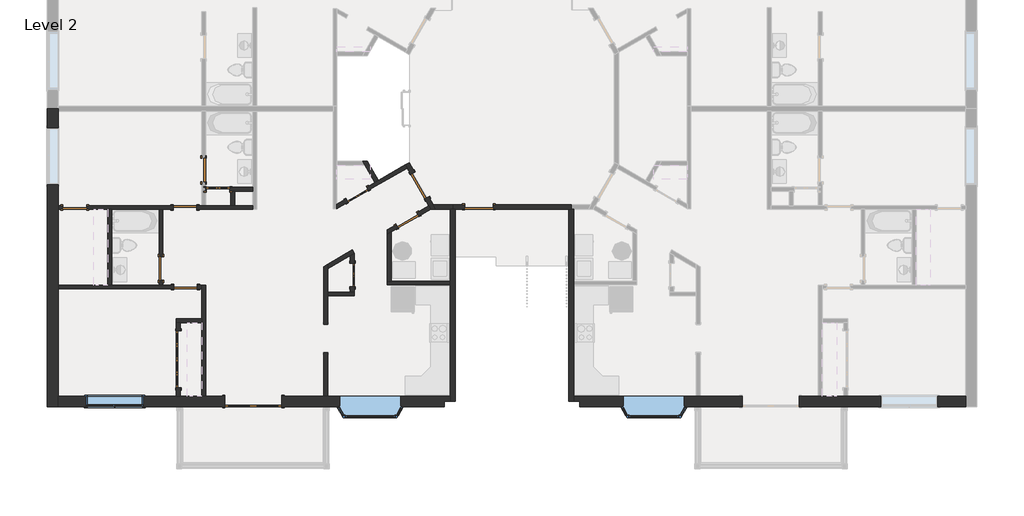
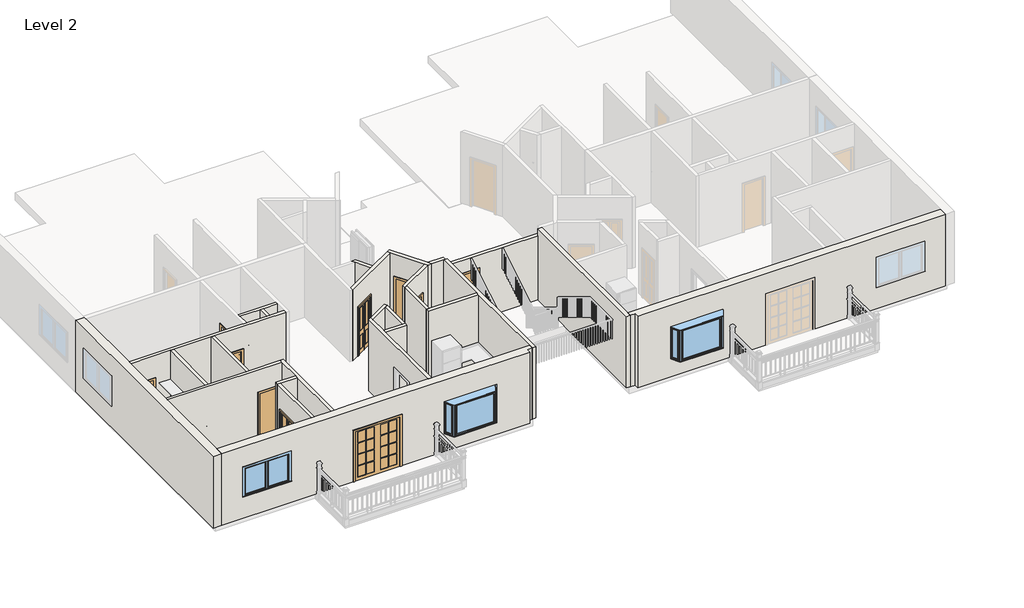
# One storey, part 1 of 5: 26 walls, 13 doors, 3 windows.
"""IFC4 building model written with IfcOpenShell, lengths in millimetres."""

from ifc_helpers import new_model, si_unit, frame, origin, place, context, project, spatial, polyline, outline, extrude, faceted_brep, transform, mapped, element, save
from components import door_28b41c19, door_77c9d7c5, door_c95ce901, door_0a477ef8, door_91cbdfe0, door_39079f6b, door_140ee3fe, door_3dff5d0e, window_fb9100aa, window_7fb523db, window_565d5888

model = new_model("IFC4")

# Units and contexts
model_context = context("Model", 3, world=origin())
ifc_project = project(units=[si_unit("LENGTHUNIT", "METRE", prefix="MILLI")], contexts=[model_context])

# Site, building, storey
site = spatial("IfcSite", under=ifc_project)
building = spatial("IfcBuilding", under=site)
storey = spatial("IfcBuildingStorey", under=building, Name="Level 2", Elevation=3048.0)

# Doors
placement = place(None, origin())
door_shape = door_28b41c19(model_context)
element("IfcDoor", 1, ObjectType="Bifold-2 Panel : 30\" x 80\"", at=placement, inside=storey, context=model_context, shape_type="MappedRepresentation", body=[
    mapped(door_shape, transform((-10106.3500398, -807.7286799, 3048.0), x_axis=(-1.0, 0.0, 0.0), y_axis=(0.0, -1.0, 0.0), z_axis=(0.0, 0.0, 1.0))),
])
door_2_shape = door_77c9d7c5(model_context)
element("IfcDoor", 2, ObjectType="Bifold-2 Panel : 30\" x 80\"", at=placement, inside=storey, context=model_context, shape_type="MappedRepresentation", body=[
    mapped(door_2_shape, transform((-5777.2375398, -3569.9786799, 3048.0), x_axis=(0.0, -1.0, 0.0), y_axis=(1.0, 0.0, 0.0), z_axis=(0.0, 0.0, 1.0))),
])
element("IfcDoor", 3, ObjectType="Bifold-2 Panel : 30\" x 80\"", at=placement, inside=storey, context=model_context, shape_type="MappedRepresentation", body=[
    mapped(door_2_shape, transform((-5620.6593942, -978.2984974, 3048.0), x_axis=(-0.8660254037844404, -0.4999999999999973, 0.0), y_axis=(0.4999999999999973, -0.8660254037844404, 0.0), z_axis=(0.0, 0.0, 1.0))),
])
door_3_shape = door_c95ce901(model_context)
element("IfcDoor", 4, ObjectType="Bifold-4 Panel : 72\" x 80\"", at=placement, inside=storey, context=model_context, shape_type="MappedRepresentation", body=[
    mapped(door_3_shape, transform((-11387.4625398, -6287.7786799, 3048.0), x_axis=(0.0, 1.0, 0.0), y_axis=(-1.0, 0.0, 0.0), z_axis=(0.0, 0.0, 1.0))),
])
door_4_shape = door_0a477ef8(model_context)
element("IfcDoor", 5, ObjectType="Double-Glass 2 : 72\" x 84\"", at=placement, inside=storey, context=model_context, shape_type="MappedRepresentation", body=[
    mapped(door_4_shape, transform((-8972.8750398, -7646.6786799, 3048.0), x_axis=(-1.0, 0.0, 0.0), y_axis=(0.0, -1.0, 0.0), z_axis=(0.0, 0.0, 1.0))),
])
door_5_shape = door_91cbdfe0(model_context)
element("IfcDoor", 6, ObjectType="Single-Flush : 30\" x 80\"", at=placement, inside=storey, context=model_context, shape_type="MappedRepresentation", body=[
    mapped(door_5_shape, transform((-11154.1000398, -3954.1536799, 3048.0), x_axis=(1.0, 0.0, 0.0), y_axis=(0.0, 1.0, 0.0), z_axis=(0.0, 0.0, 1.0))),
])
element("IfcDoor", 7, ObjectType="Single-Flush : 30\" x 80\"", at=placement, inside=storey, context=model_context, shape_type="MappedRepresentation", body=[
    mapped(door_5_shape, transform((-4004.5369788, -1809.0046321, 3048.0), x_axis=(0.8660254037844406, 0.4999999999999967, 0.0), y_axis=(-0.4999999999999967, 0.8660254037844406, 0.0), z_axis=(0.0, 0.0, 1.0))),
])
element("IfcDoor", 8, ObjectType="Single-Flush : 30\" x 80\"", at=placement, inside=storey, context=model_context, shape_type="MappedRepresentation", body=[
    mapped(door_5_shape, transform((-11949.4375398, -3358.8411799, 3048.0), x_axis=(0.0, -1.0, 0.0), y_axis=(1.0, 0.0, 0.0), z_axis=(0.0, 0.0, 1.0))),
])
door_6_shape = door_39079f6b(model_context)
element("IfcDoor", 9, ObjectType="Single-Flush : 30\" x 80\"", at=placement, inside=storey, context=model_context, shape_type="MappedRepresentation", body=[
    mapped(door_6_shape, transform((-11169.9750398, -1391.9286799, 3048.0), x_axis=(1.0, 0.0, 0.0), y_axis=(0.0, 1.0, 0.0), z_axis=(0.0, 0.0, 1.0))),
])
element("IfcDoor", 10, ObjectType="Single-Flush : 30\" x 80\"", at=placement, inside=storey, context=model_context, shape_type="MappedRepresentation", body=[
    mapped(door_6_shape, transform((-10574.6625398, -183.8411799, 3048.0), x_axis=(0.0, -1.0, 0.0), y_axis=(1.0, 0.0, 0.0), z_axis=(0.0, 0.0, 1.0))),
])
element("IfcDoor", 11, ObjectType="Single-Flush : 30\" x 80\"", at=placement, inside=storey, context=model_context, shape_type="MappedRepresentation", body=[
    mapped(door_6_shape, transform((-14725.9750398, -1391.9286799, 3048.0), x_axis=(-1.0, 0.0, 0.0), y_axis=(0.0, -1.0, 0.0), z_axis=(0.0, 0.0, 1.0))),
])
door_7_shape = door_140ee3fe(model_context)
element("IfcDoor", 12, ObjectType="Single-Flush : 36\" x 80\"", at=placement, inside=storey, context=model_context, shape_type="MappedRepresentation", body=[
    mapped(door_7_shape, transform((-3603.7554054, -687.0786799, 3048.0), x_axis=(-0.4999999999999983, 0.8660254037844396, 0.0), y_axis=(-0.8660254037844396, -0.4999999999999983, 0.0), z_axis=(0.0, 0.0, 1.0))),
])
door_8_shape = door_3dff5d0e(model_context)
element("IfcDoor", 13, ObjectType="Single-Flush : 36\" x 84\"", at=placement, inside=storey, context=model_context, shape_type="MappedRepresentation", body=[
    mapped(door_8_shape, transform((-1698.9500398, -1372.8786799, 3048.0), x_axis=(-1.0, 0.0, 0.0), y_axis=(0.0, -1.0, 0.0), z_axis=(0.0, 0.0, 1.0))),
])

# Walls
element("IfcWall", 14, ObjectType="Exterior - Brick on Mtl. Stud", at=placement, inside=storey, context=model_context, shape_type="Brep", body=[
    faceted_brep([(-15259.3750398, -7822.8911799, 3048.0), (-9887.2750398, -7822.8911799, 3048.0), (-9887.2750398, -7822.8911799, 5181.6), (-8058.4750398, -7822.8911799, 5181.6), (-8058.4750398, -7822.8911799, 3048.0), (-2813.3750398, -7822.8911799, 3048.0), (-2813.3750398, -7822.8911799, 6096.0), (-8058.4750398, -7822.8911799, 6096.0), (-9887.2750398, -7822.8911799, 6096.0), (-15259.3750398, -7822.8911799, 6096.0), (-6259.7532738, -7822.8911799, 5181.6), (-4151.6375398, -7822.8911799, 5181.6), (-4151.6375398, -7822.8911799, 3810.0), (-6259.7532738, -7822.8911799, 3810.0), (-14350.5312898, -7822.8911799, 5181.6), (-12521.7312898, -7822.8911799, 5181.6), (-12521.7312898, -7822.8911799, 3962.4), (-14350.5312898, -7822.8911799, 3962.4), (-9887.2750398, -7470.4661799, 5181.6), (-9887.2750398, -7470.4661799, 3048.0), (-10512.7500398, -7470.4661799, 3048.0), (-10636.5750398, -7470.4661799, 3048.0), (-11325.5500398, -7470.4661799, 3048.0), (-11449.3750398, -7470.4661799, 3048.0), (-15259.3750398, -7470.4661799, 3048.0), (-15259.3750398, -7470.4661799, 6096.0), (-11449.3750398, -7470.4661799, 6096.0), (-11325.5500398, -7470.4661799, 6096.0), (-10636.5750398, -7470.4661799, 6096.0), (-10512.7500398, -7470.4661799, 6096.0), (-9887.2750398, -7470.4661799, 6096.0), (-8058.4750398, -7470.4661799, 6096.0), (-6702.7500398, -7470.4661799, 6096.0), (-6578.9250398, -7470.4661799, 6096.0), (-2616.5250398, -7470.4661799, 6096.0), (-2616.5250398, -7470.4661799, 3048.0), (-6578.9250398, -7470.4661799, 3048.0), (-6702.7500398, -7470.4661799, 3048.0), (-8058.4750398, -7470.4661799, 3048.0), (-8058.4750398, -7470.4661799, 5181.6), (-4218.9373798, -7470.4661799, 5181.6), (-6192.5376998, -7470.4661799, 5181.6), (-6192.5376998, -7470.4661799, 3810.0), (-4218.9373798, -7470.4661799, 3810.0), (-14350.5312898, -7470.4661799, 5181.6), (-14350.5312898, -7470.4661799, 3962.4), (-12521.7312898, -7470.4661799, 3962.4), (-12521.7312898, -7470.4661799, 5181.6), (-2616.5250398, -7646.6786799, 3048.0), (-2813.3750398, -7646.6786799, 3048.0), (-2813.3750398, -7646.6786799, 6096.0), (-2616.5250398, -7646.6786799, 6096.0), (-4218.9373798, -7783.9404412, 5181.6), (-6192.5376998, -7783.9890922, 5181.6), (-4218.9373798, -7783.9404412, 3810.0), (-6192.5376998, -7783.9890922, 3810.0)], [[[0, 1, 2, 3, 4, 5, 6, 7, 8, 9], [10, 11, 12, 13], [14, 15, 16, 17]], [[18, 19, 20, 21, 22, 23, 24, 25, 26, 27, 28, 29, 30, 31, 32, 33, 34, 35, 36, 37, 38, 39], [40, 41, 42, 43], [44, 45, 46, 47]], [[24, 23, 22, 21, 20, 19, 1, 0]], [[38, 37, 36, 35, 48, 49, 5, 4]], [[9, 8, 7, 6, 50, 51, 34, 33, 32, 31, 30, 29, 28, 27, 26, 25]], [[0, 9, 25, 24]], [[6, 5, 49, 50]], [[49, 48, 51, 50]], [[48, 35, 34, 51]], [[2, 1, 19, 18]], [[3, 2, 18, 39]], [[4, 3, 39, 38]], [[52, 11, 10, 53, 41, 40]], [[54, 43, 42, 55, 13, 12]], [[52, 40, 43, 54]], [[41, 53, 55, 42]], [[53, 10, 13, 55]], [[11, 52, 54, 12]], [[45, 44, 14, 17]], [[46, 45, 17, 16]], [[47, 46, 16, 15]], [[44, 47, 15, 14]]]),
])
element("IfcWall", 15, ObjectType="Exterior - Brick on Mtl. Stud", at=placement, inside=storey, context=model_context, shape_type="Brep", body=[
    faceted_brep([(-15611.8000398, 1795.7713201, 3048.0), (-15611.8000398, -7822.8911799, 3048.0), (-15611.8000398, -7822.8911799, 6096.0), (-15611.8000398, 1795.7713201, 6096.0), (-15611.8000398, 1170.2963201, 5181.6), (-15611.8000398, -658.5036799, 5181.6), (-15611.8000398, -658.5036799, 3962.4), (-15611.8000398, 1170.2963201, 3962.4), (-15259.3750398, 1795.7713201, 3048.0), (-15259.3750398, 1795.7713201, 6096.0), (-15259.3750398, 1717.9838201, 6096.0), (-15259.3750398, -1330.0161799, 6096.0), (-15259.3750398, -1453.8411799, 6096.0), (-15259.3750398, -3892.2411799, 6096.0), (-15259.3750398, -4016.0661799, 6096.0), (-15259.3750398, -7470.4661799, 6096.0), (-15259.3750398, -7822.8911799, 6096.0), (-15259.3750398, -7822.8911799, 3048.0), (-15259.3750398, -7470.4661799, 3048.0), (-15259.3750398, -4016.0661799, 3048.0), (-15259.3750398, -3892.2411799, 3048.0), (-15259.3750398, -1453.8411799, 3048.0), (-15259.3750398, -1330.0161799, 3048.0), (-15259.3750398, 1717.9838201, 3048.0), (-15259.3750398, 1170.2963201, 5181.6), (-15259.3750398, 1170.2963201, 3962.4), (-15259.3750398, -658.5036799, 3962.4), (-15259.3750398, -658.5036799, 5181.6)], [[[0, 1, 2, 3], [4, 5, 6, 7]], [[8, 9, 10, 11, 12, 13, 14, 15, 16, 17, 18, 19, 20, 21, 22, 23], [24, 25, 26, 27]], [[1, 0, 8, 23, 22, 21, 20, 19, 18, 17]], [[3, 2, 16, 15, 14, 13, 12, 11, 10, 9]], [[0, 3, 9, 8]], [[2, 1, 17, 16]], [[25, 24, 4, 7]], [[26, 25, 7, 6]], [[27, 26, 6, 5]], [[24, 27, 5, 4]]]),
])
element("IfcWall", 16, ObjectType="Exterior - Brick on Mtl. Stud", at=placement, inside=storey, context=model_context, shape_type="Brep", body=[
    faceted_brep([(13995.0749602, -7470.4661799, 3048.0), (10185.0749602, -7470.4661799, 3048.0), (10061.2499602, -7470.4661799, 3048.0), (9372.2749602, -7470.4661799, 3048.0), (9248.4499602, -7470.4661799, 3048.0), (8622.9749602, -7470.4661799, 3048.0), (8622.9749602, -7470.4661799, 5181.6), (6794.1749602, -7470.4661799, 5181.6), (6794.1749602, -7470.4661799, 3048.0), (5438.4499602, -7470.4661799, 3048.0), (5314.6249602, -7470.4661799, 3048.0), (1352.2249602, -7470.4661799, 3048.0), (1352.2249602, -7470.4661799, 6096.0), (5314.6249602, -7470.4661799, 6096.0), (5438.4499602, -7470.4661799, 6096.0), (6794.1749602, -7470.4661799, 6096.0), (8622.9749602, -7470.4661799, 6096.0), (9248.4499602, -7470.4661799, 6096.0), (9372.2749602, -7470.4661799, 6096.0), (10061.2499602, -7470.4661799, 6096.0), (10185.0749602, -7470.4661799, 6096.0), (13995.0749602, -7470.4661799, 6096.0), (4928.2376202, -7470.4661799, 5181.6), (2954.6373002, -7470.4661799, 5181.6), (2954.6373002, -7470.4661799, 3810.0), (4928.2376202, -7470.4661799, 3810.0), (13086.2312102, -7470.4661799, 5181.6), (11257.4312102, -7470.4661799, 5181.6), (11257.4312102, -7470.4661799, 3962.4), (13086.2312102, -7470.4661799, 3962.4), (8622.9749602, -7822.8911799, 5181.6), (8622.9749602, -7822.8911799, 3048.0), (13995.0749602, -7822.8911799, 3048.0), (13995.0749602, -7822.8911799, 6096.0), (8622.9749602, -7822.8911799, 6096.0), (6794.1749602, -7822.8911799, 6096.0), (1549.0749602, -7822.8911799, 6096.0), (1549.0749602, -7822.8911799, 3048.0), (6794.1749602, -7822.8911799, 3048.0), (6794.1749602, -7822.8911799, 5181.6), (2887.3374602, -7822.8911799, 5181.6), (4995.4531942, -7822.8911799, 5181.6), (4995.4531942, -7822.8911799, 3810.0), (2887.3374602, -7822.8911799, 3810.0), (13086.2312102, -7822.8911799, 5181.6), (13086.2312102, -7822.8911799, 3962.4), (11257.4312102, -7822.8911799, 3962.4), (11257.4312102, -7822.8911799, 5181.6), (1549.0749602, -7646.6786799, 3048.0), (1352.2249602, -7646.6786799, 3048.0), (1352.2249602, -7646.6786799, 6096.0), (1549.0749602, -7646.6786799, 6096.0), (2954.6373002, -7783.9404412, 5181.6), (4928.2376202, -7783.9890922, 5181.6), (2954.6373002, -7783.9404412, 3810.0), (4928.2376202, -7783.9890922, 3810.0)], [[[0, 1, 2, 3, 4, 5, 6, 7, 8, 9, 10, 11, 12, 13, 14, 15, 16, 17, 18, 19, 20, 21], [22, 23, 24, 25], [26, 27, 28, 29]], [[30, 31, 32, 33, 34, 35, 36, 37, 38, 39], [40, 41, 42, 43], [44, 45, 46, 47]], [[32, 31, 5, 4, 3, 2, 1, 0]], [[38, 37, 48, 49, 11, 10, 9, 8]], [[21, 20, 19, 18, 17, 16, 15, 14, 13, 12, 50, 51, 36, 35, 34, 33]], [[0, 21, 33, 32]], [[12, 11, 49, 50]], [[49, 48, 51, 50]], [[48, 37, 36, 51]], [[6, 5, 31, 30]], [[7, 6, 30, 39]], [[8, 7, 39, 38]], [[52, 23, 22, 53, 41, 40]], [[54, 43, 42, 55, 25, 24]], [[52, 54, 24, 23]], [[22, 25, 55, 53]], [[53, 55, 42, 41]], [[40, 43, 54, 52]], [[45, 44, 26, 29]], [[46, 45, 29, 28]], [[47, 46, 28, 27]], [[44, 47, 27, 26]]]),
])
element("IfcWall", 17, ObjectType="Generic - 6\" Masonry", at=placement, inside=storey, context=model_context, shape_type="Brep", body=[
    faceted_brep([(-3084.0752113, -1444.3161799, 3048.0), (-2616.5250398, -1444.3161799, 3048.0), (-2538.7375398, -1444.3161799, 3048.0), (-2538.7375398, -1444.3161799, 5791.2), (-2538.7375398, -1444.3161799, 6096.0), (-2616.5250398, -1444.3161799, 6096.0), (-3084.0752113, -1444.3161799, 6096.0), (-3166.564131, -1301.4411799, 3048.0), (-3166.564131, -1301.4411799, 6096.0), (-2538.7375398, -1301.4411799, 6096.0), (-2538.7375398, -1301.4411799, 5791.2), (-2538.7375398, -1301.4411799, 3048.0)], [[[0, 1, 2, 3, 4, 5, 6]], [[7, 8, 9, 10, 11]], [[2, 1, 0, 7, 11]], [[4, 3, 2, 11, 10, 9]], [[6, 5, 4, 9, 8]], [[0, 6, 8, 7]]]),
])
element("IfcWall", 18, ObjectType="Generic - 6\" Masonry", at=placement, inside=storey, context=model_context, shape_type="Brep", body=[
    faceted_brep([(-4074.7024624, -14.2494496, 3048.0), (-4012.7899624, -121.4850452, 3048.0), (-3894.2220952, -326.8506153, 3048.0), (-3894.2220952, -326.8506153, 5080.0), (-3437.0220952, -1118.7442445, 5080.0), (-3437.0220952, -1118.7442445, 3048.0), (-3310.9655507, -1337.0805843, 3048.0), (-3249.0530507, -1444.3161799, 3048.0), (-3249.0530507, -1444.3161799, 6096.0), (-3310.9655507, -1337.0805843, 6096.0), (-4012.7899624, -121.4850452, 6096.0), (-4074.7024624, -14.2494496, 6096.0), (-3770.4887156, -255.4131153, 5080.0), (-3770.4887156, -255.4131153, 3048.0), (-3950.9690828, 57.1880504, 3048.0), (-3950.9690828, 57.1880504, 6096.0), (-3166.564131, -1301.4411799, 6096.0), (-3084.0752113, -1444.3161799, 6096.0), (-3084.0752113, -1444.3161799, 3048.0), (-3166.564131, -1301.4411799, 3048.0), (-3313.2887156, -1047.3067445, 3048.0), (-3313.2887156, -1047.3067445, 5080.0)], [[[0, 1, 2, 3, 4, 5, 6, 7, 8, 9, 10, 11]], [[12, 13, 14, 15, 16, 17, 18, 19, 20, 21]], [[14, 13, 2, 1, 0]], [[20, 19, 18, 7, 6, 5]], [[11, 10, 9, 8, 17, 16, 15]], [[8, 7, 18, 17]], [[0, 11, 15, 14]], [[3, 2, 13, 12]], [[4, 3, 12, 21]], [[5, 4, 21, 20]]]),
])
element("IfcWall", 19, ObjectType="Generic - 6\" Masonry", at=placement, inside=storey, context=model_context, shape_type="Brep", body=[
    faceted_brep([(-2538.7375398, -1444.3161799, 3048.0), (-2460.9500398, -1444.3161799, 3048.0), (-2156.1500398, -1444.3161799, 3048.0), (-2156.1500398, -1444.3161799, 5181.6), (-1241.7500398, -1444.3161799, 5181.6), (-1241.7500398, -1444.3161799, 3048.0), (1196.6499602, -1444.3161799, 3048.0), (1274.4374602, -1444.3161799, 3048.0), (1274.4374602, -1444.3161799, 5791.2), (-2538.7375398, -1444.3161799, 5791.2), (-2156.1500398, -1301.4411799, 5181.6), (-2156.1500398, -1301.4411799, 3048.0), (-2538.7375398, -1301.4411799, 3048.0), (-2538.7375398, -1301.4411799, 5791.2), (1274.4374602, -1301.4411799, 5791.2), (1274.4374602, -1301.4411799, 3048.0), (1196.6499602, -1301.4411799, 3048.0), (-1241.7500398, -1301.4411799, 3048.0), (-1241.7500398, -1301.4411799, 5181.6), (1274.4374602, -1372.8786799, 5791.2), (-2538.7375398, -1372.8786799, 5791.2)], [[[0, 1, 2, 3, 4, 5, 6, 7, 8, 9]], [[10, 11, 12, 13, 14, 15, 16, 17, 18]], [[12, 11, 2, 1, 0]], [[17, 16, 15, 7, 6, 5]], [[8, 7, 15, 14, 19]], [[0, 9, 20, 13, 12]], [[3, 2, 11, 10]], [[4, 3, 10, 18]], [[5, 4, 18, 17]], [[19, 14, 13, 20, 9, 8]]]),
])
element("IfcWall", 20, ObjectType="Interior - 4 7/8\" Partition (1-hr)", at=placement, inside=storey, context=model_context, shape_type="Brep", body=[
    faceted_brep([(-6578.9250398, -7470.4661799, 3048.0), (-6578.9250398, -6071.8786799, 3048.0), (-6578.9250398, -6071.8786799, 5080.0), (-6578.9250398, -5157.4786799, 5080.0), (-6578.9250398, -5157.4786799, 3048.0), (-6578.9250398, -4244.6661799, 3048.0), (-6578.9250398, -4120.8411799, 3048.0), (-6578.9250398, -3366.8186692, 3048.0), (-6578.9250398, -3223.8378751, 3048.0), (-6578.9250398, -3223.8378751, 6096.0), (-6578.9250398, -3366.8186692, 6096.0), (-6578.9250398, -4120.8411799, 6096.0), (-6578.9250398, -4244.6661799, 6096.0), (-6578.9250398, -7470.4661799, 6096.0), (-6702.7500398, -6071.8786799, 5080.0), (-6702.7500398, -6071.8786799, 3048.0), (-6702.7500398, -7470.4661799, 3048.0), (-6702.7500398, -7470.4661799, 6096.0), (-6702.7500398, -3295.3282721, 6096.0), (-6702.7500398, -3295.3282721, 3048.0), (-6702.7500398, -5157.4786799, 3048.0), (-6702.7500398, -5157.4786799, 5080.0)], [[[0, 1, 2, 3, 4, 5, 6, 7, 8, 9, 10, 11, 12, 13]], [[14, 15, 16, 17, 18, 19, 20, 21]], [[16, 15, 1, 0]], [[20, 19, 8, 7, 6, 5, 4]], [[13, 12, 11, 10, 9, 18, 17]], [[9, 8, 19, 18]], [[0, 13, 17, 16]], [[4, 3, 21, 20]], [[2, 1, 15, 14]], [[3, 2, 14, 21]]]),
])
element("IfcWall", 21, ObjectType="Interior - 4 7/8\" Partition (1-hr)", at=placement, inside=storey, context=model_context, shape_type="Brep", body=[
    faceted_brep([(-10512.7500398, -7470.4661799, 3048.0), (-10512.7500398, -3892.2411799, 3048.0), (-10512.7500398, -3892.2411799, 6096.0), (-10512.7500398, -7470.4661799, 6096.0), (-10636.5750398, -7470.4661799, 3048.0), (-10636.5750398, -7470.4661799, 6096.0), (-10636.5750398, -5105.0911799, 6096.0), (-10636.5750398, -4981.2661799, 6096.0), (-10636.5750398, -4016.0661799, 6096.0), (-10636.5750398, -3892.2411799, 6096.0), (-10636.5750398, -3892.2411799, 3048.0), (-10636.5750398, -4016.0661799, 3048.0), (-10636.5750398, -4981.2661799, 3048.0), (-10636.5750398, -5105.0911799, 3048.0)], [[[0, 1, 2, 3]], [[4, 5, 6, 7, 8, 9, 10, 11, 12, 13]], [[1, 0, 4, 13, 12, 11, 10]], [[3, 2, 9, 8, 7, 6, 5]], [[2, 1, 10, 9]], [[0, 3, 5, 4]]]),
])
element("IfcWall", 22, ObjectType="Interior - 4 7/8\" Partition (1-hr)", at=placement, inside=storey, context=model_context, shape_type="Brep", body=[
    faceted_brep([(-10636.5750398, -3892.2411799, 3048.0), (-10773.1000398, -3892.2411799, 3048.0), (-10773.1000398, -3892.2411799, 5080.0), (-11535.1000398, -3892.2411799, 5080.0), (-11535.1000398, -3892.2411799, 3048.0), (-11887.5250398, -3892.2411799, 3048.0), (-12011.3500398, -3892.2411799, 3048.0), (-13535.3500398, -3892.2411799, 3048.0), (-13659.1750398, -3892.2411799, 3048.0), (-15259.3750398, -3892.2411799, 3048.0), (-15259.3750398, -3892.2411799, 6096.0), (-13659.1750398, -3892.2411799, 6096.0), (-13535.3500398, -3892.2411799, 6096.0), (-12011.3500398, -3892.2411799, 6096.0), (-11887.5250398, -3892.2411799, 6096.0), (-10636.5750398, -3892.2411799, 6096.0), (-10773.1000398, -4016.0661799, 5080.0), (-10773.1000398, -4016.0661799, 3048.0), (-10636.5750398, -4016.0661799, 3048.0), (-10636.5750398, -4016.0661799, 6096.0), (-15259.3750398, -4016.0661799, 6096.0), (-15259.3750398, -4016.0661799, 3048.0), (-11535.1000398, -4016.0661799, 3048.0), (-11535.1000398, -4016.0661799, 5080.0)], [[[0, 1, 2, 3, 4, 5, 6, 7, 8, 9, 10, 11, 12, 13, 14, 15]], [[16, 17, 18, 19, 20, 21, 22, 23]], [[18, 17, 1, 0]], [[22, 21, 9, 8, 7, 6, 5, 4]], [[15, 14, 13, 12, 11, 10, 20, 19]], [[10, 9, 21, 20]], [[0, 15, 19, 18]], [[2, 1, 17, 16]], [[3, 2, 16, 23]], [[4, 3, 23, 22]]]),
])
element("IfcWall", 23, ObjectType="Interior - 4 7/8\" Partition (1-hr)", at=placement, inside=storey, context=model_context, shape_type="SweptSolid", body=[
    extrude(outline(polyline([(-3739.8411799, 5080.0), (-3739.8411799, 3048.0), (-3892.2411799, 3048.0), (-3892.2411799, 6096.0), (-1453.8411799, 6096.0), (-1453.8411799, 3048.0), (-2977.8411799, 3048.0), (-2977.8411799, 5080.0), (-3739.8411799, 5080.0)])), frame((-12011.3500398, 0.0, 0.0), z_axis=(1.0, 0.0, 0.0), x_axis=(0.0, 1.0, 0.0)), (0.0, 0.0, 1.0), 123.825),
])
element("IfcWall", 24, ObjectType="Interior - 4 7/8\" Partition (1-hr)", at=placement, inside=storey, context=model_context, shape_type="Brep", body=[
    faceted_brep([(-10636.5750398, -4981.2661799, 3048.0), (-11449.3750398, -4981.2661799, 3048.0), (-11449.3750398, -4981.2661799, 6096.0), (-10636.5750398, -4981.2661799, 6096.0), (-10636.5750398, -5105.0911799, 3048.0), (-10636.5750398, -5105.0911799, 6096.0), (-11325.5500398, -5105.0911799, 6096.0), (-11449.3750398, -5105.0911799, 6096.0), (-11449.3750398, -5105.0911799, 3048.0), (-11325.5500398, -5105.0911799, 3048.0)], [[[0, 1, 2, 3]], [[4, 5, 6, 7, 8, 9]], [[1, 0, 4, 9, 8]], [[3, 2, 7, 6, 5]], [[2, 1, 8, 7]], [[0, 3, 5, 4]]]),
])
element("IfcWall", 25, ObjectType="Interior - 4 7/8\" Partition (1-hr)", at=placement, inside=storey, context=model_context, shape_type="SweptSolid", body=[
    extrude(outline(polyline([(-5105.0911799, 3048.0), (-5373.3786799, 3048.0), (-5373.3786799, 5080.0), (-7202.1786799, 5080.0), (-7202.1786799, 3048.0), (-7470.4661799, 3048.0), (-7470.4661799, 6096.0), (-5105.0911799, 6096.0), (-5105.0911799, 3048.0)])), frame((-11449.3750398, 0.0, 0.0), z_axis=(1.0, 0.0, 0.0), x_axis=(0.0, 1.0, 0.0)), (0.0, 0.0, 1.0), 123.825),
])
element("IfcWall", 26, ObjectType="Interior - 4 7/8\" Partition (1-hr)", at=placement, inside=storey, context=model_context, shape_type="SweptSolid", body=[
    extrude(outline(polyline([(-13535.3500398, -1453.8411799), (-13535.3500398, -3892.2411799), (-13659.1750398, -3892.2411799), (-13659.1750398, -1453.8411799), (-13535.3500398, -1453.8411799)])), frame((0.0, 0.0, 3048.0), z_axis=(0.0, 0.0, 1.0), x_axis=(1.0, 0.0, 0.0)), (0.0, 0.0, 1.0), 3048.0),
])
element("IfcWall", 27, ObjectType="Interior - 4 7/8\" Partition (1-hr)", at=placement, inside=storey, context=model_context, shape_type="Brep", body=[
    faceted_brep([(-15259.3750398, -1453.8411799, 3048.0), (-15106.9750398, -1453.8411799, 3048.0), (-15106.9750398, -1453.8411799, 5080.0), (-14344.9750398, -1453.8411799, 5080.0), (-14344.9750398, -1453.8411799, 3048.0), (-13659.1750398, -1453.8411799, 3048.0), (-13535.3500398, -1453.8411799, 3048.0), (-12011.3500398, -1453.8411799, 3048.0), (-11887.5250398, -1453.8411799, 3048.0), (-11550.9750398, -1453.8411799, 3048.0), (-11550.9750398, -1453.8411799, 5080.0), (-10788.9750398, -1453.8411799, 5080.0), (-10788.9750398, -1453.8411799, 3048.0), (-8988.7500398, -1453.8411799, 3048.0), (-8988.7500398, -1453.8411799, 6096.0), (-11887.5250398, -1453.8411799, 6096.0), (-12011.3500398, -1453.8411799, 6096.0), (-13535.3500398, -1453.8411799, 6096.0), (-13659.1750398, -1453.8411799, 6096.0), (-15259.3750398, -1453.8411799, 6096.0), (-15106.9750398, -1330.0161799, 5080.0), (-15106.9750398, -1330.0161799, 3048.0), (-15259.3750398, -1330.0161799, 3048.0), (-15259.3750398, -1330.0161799, 6096.0), (-10636.5750398, -1330.0161799, 6096.0), (-10512.7500398, -1330.0161799, 6096.0), (-9699.9500398, -1330.0161799, 6096.0), (-9576.1250398, -1330.0161799, 6096.0), (-8988.7500398, -1330.0161799, 6096.0), (-8988.7500398, -1330.0161799, 3048.0), (-9576.1250398, -1330.0161799, 3048.0), (-9699.9500398, -1330.0161799, 3048.0), (-10512.7500398, -1330.0161799, 3048.0), (-10636.5750398, -1330.0161799, 3048.0), (-10788.9750398, -1330.0161799, 3048.0), (-10788.9750398, -1330.0161799, 5080.0), (-11550.9750398, -1330.0161799, 5080.0), (-11550.9750398, -1330.0161799, 3048.0), (-14344.9750398, -1330.0161799, 3048.0), (-14344.9750398, -1330.0161799, 5080.0)], [[[0, 1, 2, 3, 4, 5, 6, 7, 8, 9, 10, 11, 12, 13, 14, 15, 16, 17, 18, 19]], [[20, 21, 22, 23, 24, 25, 26, 27, 28, 29, 30, 31, 32, 33, 34, 35, 36, 37, 38, 39]], [[13, 12, 34, 33, 32, 31, 30, 29]], [[22, 21, 1, 0]], [[38, 37, 9, 8, 7, 6, 5, 4]], [[19, 18, 17, 16, 15, 14, 28, 27, 26, 25, 24, 23]], [[14, 13, 29, 28]], [[0, 19, 23, 22]], [[35, 34, 12, 11]], [[36, 35, 11, 10]], [[37, 36, 10, 9]], [[2, 1, 21, 20]], [[3, 2, 20, 39]], [[4, 3, 39, 38]]]),
])
element("IfcWall", 28, ObjectType="Interior - 4 7/8\" Partition (1-hr)", at=placement, inside=storey, context=model_context, shape_type="Brep", body=[
    faceted_brep([(-6578.9250398, -4244.6661799, 3048.0), (-5715.3250398, -4244.6661799, 3048.0), (-5715.3250398, -4244.6661799, 6096.0), (-6578.9250398, -4244.6661799, 6096.0), (-6578.9250398, -4120.8411799, 3048.0), (-6578.9250398, -4120.8411799, 6096.0), (-5839.1500398, -4120.8411799, 6096.0), (-5715.3250398, -4120.8411799, 6096.0), (-5715.3250398, -4120.8411799, 3048.0), (-5839.1500398, -4120.8411799, 3048.0)], [[[0, 1, 2, 3]], [[4, 5, 6, 7, 8, 9]], [[1, 0, 4, 9, 8]], [[3, 2, 7, 6, 5]], [[2, 1, 8, 7]], [[0, 3, 5, 4]]]),
])
element("IfcWall", 29, ObjectType="Interior - 4 7/8\" Partition (1-hr)", at=placement, inside=storey, context=model_context, shape_type="Brep", body=[
    faceted_brep([(-5715.3250398, -4120.8411799, 3048.0), (-5715.3250398, -3950.9786799, 3048.0), (-5715.3250398, -3950.9786799, 5080.0), (-5715.3250398, -3188.9786799, 5080.0), (-5715.3250398, -3188.9786799, 3048.0), (-5715.3250398, -2868.2189767, 3048.0), (-5715.3250398, -2868.2189767, 6096.0), (-5715.3250398, -4120.8411799, 6096.0), (-5839.1500398, -3950.9786799, 5080.0), (-5839.1500398, -3950.9786799, 3048.0), (-5839.1500398, -4120.8411799, 3048.0), (-5839.1500398, -4120.8411799, 6096.0), (-5839.1500398, -2939.7093738, 6096.0), (-5839.1500398, -2939.7093738, 3048.0), (-5839.1500398, -3188.9786799, 3048.0), (-5839.1500398, -3188.9786799, 5080.0)], [[[0, 1, 2, 3, 4, 5, 6, 7]], [[8, 9, 10, 11, 12, 13, 14, 15]], [[10, 9, 1, 0]], [[14, 13, 5, 4]], [[7, 6, 12, 11]], [[6, 5, 13, 12]], [[0, 7, 11, 10]], [[2, 1, 9, 8]], [[3, 2, 8, 15]], [[4, 3, 15, 14]]]),
])
element("IfcWall", 30, ObjectType="Interior - 4 7/8\" Partition (1-hr)", at=placement, inside=storey, context=model_context, shape_type="Brep", body=[
    faceted_brep([(-3310.9655507, -1337.0805843, 3048.0), (-3705.53755, -1564.8868343, 3048.0), (-3705.53755, -1564.8868343, 5080.0), (-4365.4489076, -1945.8868343, 5080.0), (-4365.4489076, -1945.8868343, 3048.0), (-4648.5250398, -2109.3209154, 3048.0), (-4648.5250398, -2109.3209154, 6096.0), (-3310.9655507, -1337.0805843, 6096.0), (-3643.62505, -1672.1224299, 5080.0), (-3643.62505, -1672.1224299, 3048.0), (-3249.0530507, -1444.3161799, 3048.0), (-3249.0530507, -1444.3161799, 6096.0), (-4524.7000398, -2180.8113125, 6096.0), (-4648.5250398, -2252.3017096, 6096.0), (-4648.5250398, -2252.3017096, 3048.0), (-4524.7000398, -2180.8113125, 3048.0), (-4303.5364076, -2053.1224299, 3048.0), (-4303.5364076, -2053.1224299, 5080.0)], [[[0, 1, 2, 3, 4, 5, 6, 7]], [[8, 9, 10, 11, 12, 13, 14, 15, 16, 17]], [[10, 9, 1, 0]], [[16, 15, 14, 5, 4]], [[7, 6, 13, 12, 11]], [[6, 5, 14, 13]], [[0, 7, 11, 10]], [[2, 1, 9, 8]], [[3, 2, 8, 17]], [[4, 3, 17, 16]]]),
])
element("IfcWall", 31, ObjectType="Interior - 4 7/8\" Partition (1-hr)", at=placement, inside=storey, context=model_context, shape_type="Brep", body=[
    faceted_brep([(-4648.5250398, -3889.0661799, 3048.0), (-2616.5250398, -3889.0661799, 3048.0), (-2616.5250398, -3889.0661799, 6096.0), (-4648.5250398, -3889.0661799, 6096.0), (-4648.5250398, -3765.2411799, 3048.0), (-4648.5250398, -3765.2411799, 6096.0), (-4524.7000398, -3765.2411799, 6096.0), (-2616.5250398, -3765.2411799, 6096.0), (-2616.5250398, -3765.2411799, 3048.0), (-4524.7000398, -3765.2411799, 3048.0)], [[[0, 1, 2, 3]], [[4, 5, 6, 7, 8, 9]], [[1, 0, 4, 9, 8]], [[3, 2, 7, 6, 5]], [[0, 3, 5, 4]], [[2, 1, 8, 7]]]),
])
element("IfcWall", 32, ObjectType="Interior - 4 7/8\" Partition (1-hr)", at=placement, inside=storey, context=model_context, shape_type="SweptSolid", body=[
    extrude(outline(polyline([(-4524.7000398, -2180.8113125), (-4524.7000398, -3765.2411799), (-4648.5250398, -3765.2411799), (-4648.5250398, -2252.3017096), (-4524.7000398, -2180.8113125)])), frame((0.0, 0.0, 3048.0), z_axis=(0.0, 0.0, 1.0), x_axis=(1.0, 0.0, 0.0)), (0.0, 0.0, 1.0), 3048.0),
])
element("IfcWall", 33, ObjectType="Interior - 4 7/8\" Partition (1-hr)", at=placement, inside=storey, context=model_context, shape_type="Brep", body=[
    faceted_brep([(-5777.2375398, -2760.9833811, 3048.0), (-6578.9250398, -3223.8378751, 3048.0), (-6578.9250398, -3223.8378751, 6096.0), (-5777.2375398, -2760.9833811, 6096.0), (-5715.3250398, -2868.2189767, 3048.0), (-5715.3250398, -2868.2189767, 6096.0), (-5839.1500398, -2939.7093738, 6096.0), (-6578.9250398, -3366.8186692, 6096.0), (-6578.9250398, -3366.8186692, 3048.0), (-5839.1500398, -2939.7093738, 3048.0)], [[[0, 1, 2, 3]], [[4, 5, 6, 7, 8, 9]], [[1, 0, 4, 9, 8]], [[3, 2, 7, 6, 5]], [[0, 3, 5, 4]], [[2, 1, 8, 7]]]),
])
element("IfcWall", 34, ObjectType="Interior - 4 7/8\" Partition (1-hr)", at=placement, inside=storey, context=model_context, shape_type="Brep", body=[
    faceted_brep([(-6277.3000398, -1428.900548, 3048.0), (-5919.658823, -1222.4162952, 3048.0), (-5919.658823, -1222.4162952, 5080.0), (-5259.7474653, -841.4162952, 5080.0), (-5259.7474653, -841.4162952, 3048.0), (-4012.7899624, -121.4850452, 3048.0), (-4012.7899624, -121.4850452, 6096.0), (-6277.3000398, -1428.900548, 6096.0), (-5981.571323, -1115.1806996, 5080.0), (-5981.571323, -1115.1806996, 3048.0), (-6277.3000398, -1285.9197539, 3048.0), (-6277.3000398, -1285.9197539, 6096.0), (-5050.8213456, -577.8119496, 6096.0), (-4943.58575, -515.8994496, 6096.0), (-4074.7024624, -14.2494496, 6096.0), (-4074.7024624, -14.2494496, 3048.0), (-4943.58575, -515.8994496, 3048.0), (-5050.8213456, -577.8119496, 3048.0), (-5321.6599653, -734.1806996, 3048.0), (-5321.6599653, -734.1806996, 5080.0)], [[[0, 1, 2, 3, 4, 5, 6, 7]], [[8, 9, 10, 11, 12, 13, 14, 15, 16, 17, 18, 19]], [[10, 9, 1, 0]], [[18, 17, 16, 15, 5, 4]], [[7, 6, 14, 13, 12, 11]], [[0, 7, 11, 10]], [[6, 5, 15, 14]], [[2, 1, 9, 8]], [[3, 2, 8, 19]], [[4, 3, 19, 18]]]),
])
element("IfcWall", 35, ObjectType="Interior - 4 7/8\" Partition (1-hr)", at=placement, inside=storey, context=model_context, shape_type="Brep", body=[
    faceted_brep([(-4943.58575, -515.8994496, 3048.0), (-5296.3292288, 95.0701778, 3048.0), (-5296.3292288, 95.0701778, 6096.0), (-4943.58575, -515.8994496, 6096.0), (-5050.8213456, -577.8119496, 3048.0), (-5050.8213456, -577.8119496, 6096.0), (-5367.8196259, -28.7548222, 6096.0), (-5439.310023, 95.0701778, 6096.0), (-5439.310023, 95.0701778, 3048.0), (-5367.8196259, -28.7548222, 3048.0)], [[[0, 1, 2, 3]], [[4, 5, 6, 7, 8, 9]], [[1, 0, 4, 9, 8]], [[3, 2, 7, 6, 5]], [[2, 1, 8, 7]], [[0, 3, 5, 4]]]),
])
element("IfcWall", 36, ObjectType="Interior - 4 7/8\" Partition (1-hr)", at=placement, inside=storey, context=model_context, shape_type="Brep", body=[
    faceted_brep([(-10512.7500398, -745.8161799, 6096.0), (-8988.7500398, -745.8161799, 6096.0), (-8988.7500398, -745.8161799, 3048.0), (-9725.3500398, -745.8161799, 3048.0), (-9725.3500398, -745.8161799, 5080.0), (-10487.3500398, -745.8161799, 5080.0), (-10487.3500398, -745.8161799, 3048.0), (-10512.7500398, -745.8161799, 3048.0), (-8988.7500398, -869.6411799, 6096.0), (-9576.1250398, -869.6411799, 6096.0), (-9699.9500398, -869.6411799, 6096.0), (-10512.7500398, -869.6411799, 6096.0), (-10512.7500398, -869.6411799, 3048.0), (-10487.3500398, -869.6411799, 3048.0), (-10487.3500398, -869.6411799, 5080.0), (-9725.3500398, -869.6411799, 5080.0), (-9725.3500398, -869.6411799, 3048.0), (-9699.9500398, -869.6411799, 3048.0), (-9576.1250398, -869.6411799, 3048.0), (-8988.7500398, -869.6411799, 3048.0)], [[[0, 1, 2, 3, 4, 5, 6, 7]], [[8, 9, 10, 11, 12, 13, 14, 15, 16, 17, 18, 19]], [[2, 19, 18, 17, 16, 3]], [[12, 7, 6, 13]], [[1, 0, 11, 10, 9, 8]], [[5, 14, 13, 6]], [[14, 5, 4, 15]], [[15, 4, 3, 16]], [[2, 1, 8, 19]], [[0, 7, 12, 11]]]),
])
element("IfcWall", 37, ObjectType="Interior - 4 7/8\" Partition (1-hr)", at=placement, inside=storey, context=model_context, shape_type="SweptSolid", body=[
    extrude(outline(polyline([(-9699.9500398, -1330.0161799), (-9699.9500398, -869.6411799), (-9576.1250398, -869.6411799), (-9576.1250398, -1330.0161799), (-9699.9500398, -1330.0161799)])), frame((0.0, 0.0, 3048.0), z_axis=(0.0, 0.0, 1.0), x_axis=(1.0, 0.0, 0.0)), (0.0, 0.0, 1.0), 3048.0),
])
element("IfcWall", 38, ObjectType="Interior - 6 1/8\" Partition (2-hr)", at=placement, inside=storey, context=model_context, shape_type="Brep", body=[
    faceted_brep([(-2616.5250398, -1444.3161799, 6096.0), (-2616.5250398, -1444.3161799, 3048.0), (-2616.5250398, -3765.2411799, 3048.0), (-2616.5250398, -3889.0661799, 3048.0), (-2616.5250398, -7470.4661799, 3048.0), (-2616.5250398, -7646.6786799, 3048.0), (-2616.5250398, -7646.6786799, 6096.0), (-2616.5250398, -7470.4661799, 6096.0), (-2616.5250398, -3889.0661799, 6096.0), (-2616.5250398, -3765.2411799, 6096.0), (-2460.9500398, -1444.3161799, 3048.0), (-2460.9500398, -1444.3161799, 6096.0), (-2460.9500398, -7646.6786799, 6096.0), (-2460.9500398, -7646.6786799, 3048.0), (-2538.7375398, -1444.3161799, 3048.0), (-2538.7375398, -1444.3161799, 6096.0)], [[[0, 1, 2, 3, 4, 5, 6, 7, 8, 9]], [[10, 11, 12, 13]], [[5, 4, 3, 2, 1, 14, 10, 13]], [[6, 5, 13, 12]], [[0, 9, 8, 7, 6, 12, 11, 15]], [[0, 15, 11, 10, 14, 1]]]),
])
element("IfcWall", 39, ObjectType="Interior - 6 1/8\" Partition (2-hr)", at=placement, inside=storey, context=model_context, shape_type="Brep", body=[
    faceted_brep([(1196.6499602, -1444.3161799, 6096.0), (1196.6499602, -1444.3161799, 3048.0), (1196.6499602, -7646.6786799, 3048.0), (1196.6499602, -7646.6786799, 6096.0), (1352.2249602, -1444.3161799, 3048.0), (1352.2249602, -1444.3161799, 6096.0), (1352.2249602, -3765.2411799, 6096.0), (1352.2249602, -3889.0661799, 6096.0), (1352.2249602, -7470.4661799, 6096.0), (1352.2249602, -7646.6786799, 6096.0), (1352.2249602, -7646.6786799, 3048.0), (1352.2249602, -7470.4661799, 3048.0), (1352.2249602, -3889.0661799, 3048.0), (1352.2249602, -3765.2411799, 3048.0), (1274.4374602, -1444.3161799, 3048.0), (1274.4374602, -1444.3161799, 6096.0)], [[[0, 1, 2, 3]], [[4, 5, 6, 7, 8, 9, 10, 11, 12, 13]], [[2, 1, 14, 4, 13, 12, 11, 10]], [[3, 2, 10, 9]], [[0, 3, 9, 8, 7, 6, 5, 15]], [[0, 15, 5, 4, 14, 1]]]),
])

# Windows
window_shape = window_fb9100aa(model_context)
element("IfcWindow", 40, ObjectType="Bay-30 Deg : 84\" x 54\"", at=placement, inside=storey, context=model_context, shape_type="MappedRepresentation", body=[
    mapped(window_shape, transform((-5205.7861908, -7646.6786799, 3048.0), x_axis=(-1.0, 0.0, 0.0), y_axis=(0.0, -1.0, 0.0), z_axis=(0.0, 0.0, 1.0))),
])
window_2_shape = window_7fb523db(model_context)
element("IfcWindow", 41, ObjectType="Bay-30 Deg : 84\" x 54\"", at=placement, inside=storey, context=model_context, shape_type="MappedRepresentation", body=[
    mapped(window_2_shape, transform((3941.4861112, -7646.6786799, 3048.0), x_axis=(1.0, 0.0, 0.0), y_axis=(0.0, 1.0, 0.0), z_axis=(0.0, 0.0, 1.0))),
])
window_3_shape = window_565d5888(model_context)
element("IfcWindow", 42, ObjectType="Casement Dbl with Trim : 72\" x 48\"", at=placement, inside=storey, context=model_context, shape_type="MappedRepresentation", body=[
    mapped(window_3_shape, transform((-13436.1312898, -7627.6286799, 2743.2), x_axis=(-1.0, 0.0, 0.0), y_axis=(0.0, -1.0, 0.0), z_axis=(0.0, 0.0, 1.0))),
])

save(model, "model.ifc")
